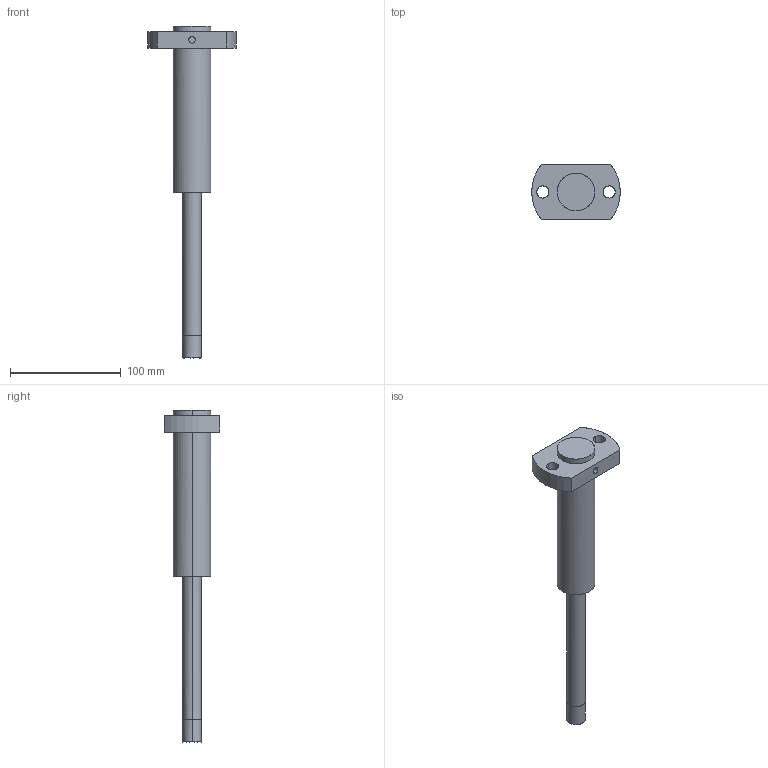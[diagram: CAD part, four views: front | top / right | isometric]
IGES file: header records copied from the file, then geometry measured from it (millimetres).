
Global section: file name: E:\UnigraphicsGraphicData\MISUMI_PRESS-PARTS\IGES\3d_papzu16-150-150-130-175_01713_r00.igs; native system: NX V5.0; preprocessor: UGS NX IGES V5.0; author: MISUMI; date: 20110105.162228; units: millimetre
Bounding box: 80 x 50 x 300 mm (x, y, z)
Surface area: 38550.5 mm2 (no closed solid volume)
Topology: 0 solids, 0 shells, 32 faces, 292 edges, 292 vertices
Faces by surface type: bspline 32
